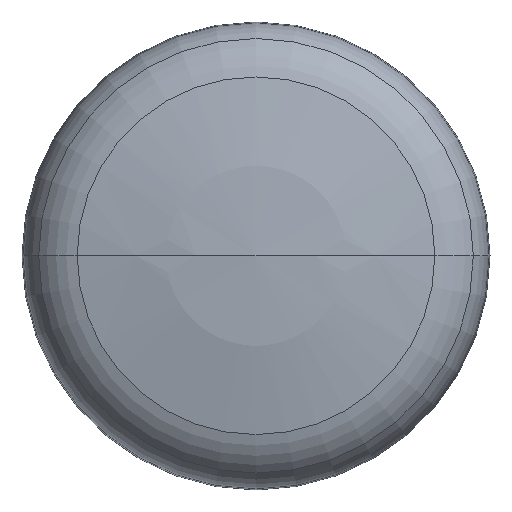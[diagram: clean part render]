
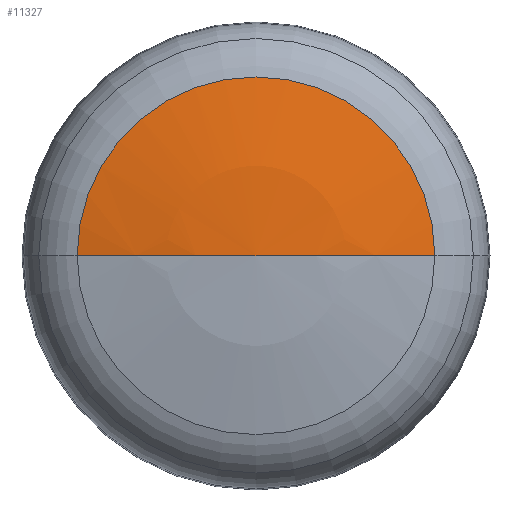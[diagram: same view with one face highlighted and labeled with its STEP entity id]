
A CAD part, top view. The second image highlights one B-rep face of the part: STEP entity #11327.
In plain terms, the highlighted spherical face has radius 61.72 mm.
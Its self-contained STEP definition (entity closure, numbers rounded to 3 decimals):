
#3832=CARTESIAN_POINT('',(0.,0.,-48.72));
#3833=DIRECTION('',(0.,1.,0.));
#3834=DIRECTION('',(-0.228,0.,0.974));
#3835=AXIS2_PLACEMENT_3D('',#3832,#3833,#3834);
#3837=CARTESIAN_POINT('',(0.,0.,-48.72));
#3838=DIRECTION('',(0.,-1.,0.));
#3839=DIRECTION('',(0.228,0.,0.974));
#3840=AXIS2_PLACEMENT_3D('',#3837,#3838,#3839);
#3842=CARTESIAN_POINT('',(0.,0.,11.377));
#3843=DIRECTION('',(0.,0.,1.));
#3844=DIRECTION('',(0.,1.,0.));
#3845=AXIS2_PLACEMENT_3D('',#3842,#3843,#3844);
#3847=CARTESIAN_POINT('',(0.,0.,11.377));
#3848=DIRECTION('',(0.,0.,1.));
#3849=DIRECTION('',(1.,0.,0.));
#3850=AXIS2_PLACEMENT_3D('',#3847,#3848,#3849);
#6098=CARTESIAN_POINT('',(-14.059,0.,11.377));
#6100=VERTEX_POINT('',#6098);
#6104=CARTESIAN_POINT('',(14.059,0.,11.377));
#6105=VERTEX_POINT('',#6104);
#6110=CARTESIAN_POINT('',(0.,0.,13.));
#6111=VERTEX_POINT('',#6110);
#6112=CARTESIAN_POINT('',(0.,14.059,11.377));
#6113=VERTEX_POINT('',#6112);
#11314=CARTESIAN_POINT('',(0.,0.,-48.72));
#11315=DIRECTION('',(0.,0.,1.));
#11316=DIRECTION('',(1.,0.,0.));
#11317=AXIS2_PLACEMENT_3D('',#11314,#11315,#11316);
#11318=SPHERICAL_SURFACE('',#11317,61.72);
#11320=ORIENTED_EDGE('',*,*,#11319,.F.);
#11322=ORIENTED_EDGE('',*,*,#11321,.F.);
#11323=ORIENTED_EDGE('',*,*,#11309,.T.);
#11324=ORIENTED_EDGE('',*,*,#11307,.F.);
#11325=EDGE_LOOP('',(#11320,#11322,#11323,#11324));
#11326=FACE_OUTER_BOUND('',#11325,.F.);
#11327=ADVANCED_FACE('',(#11326),#11318,.T.);
#3836=CIRCLE('',#3835,61.72);
#3841=CIRCLE('',#3840,61.72);
#3846=CIRCLE('',#3845,14.059);
#3851=CIRCLE('',#3850,14.059);
#11307=EDGE_CURVE('',#6100,#6111,#3836,.T.);
#11309=EDGE_CURVE('',#6105,#6111,#3841,.T.);
#11319=EDGE_CURVE('',#6113,#6100,#3846,.T.);
#11321=EDGE_CURVE('',#6105,#6113,#3851,.T.);
